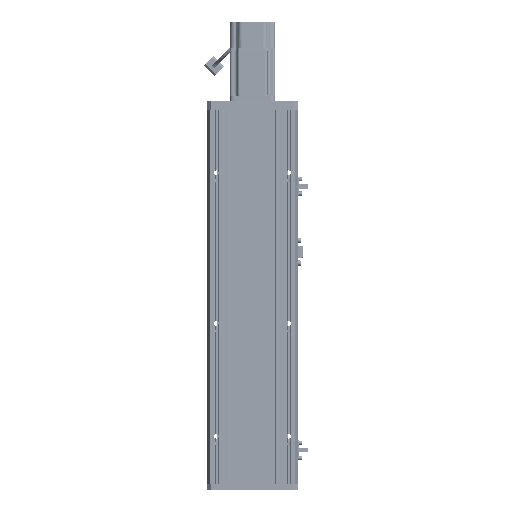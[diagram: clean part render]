
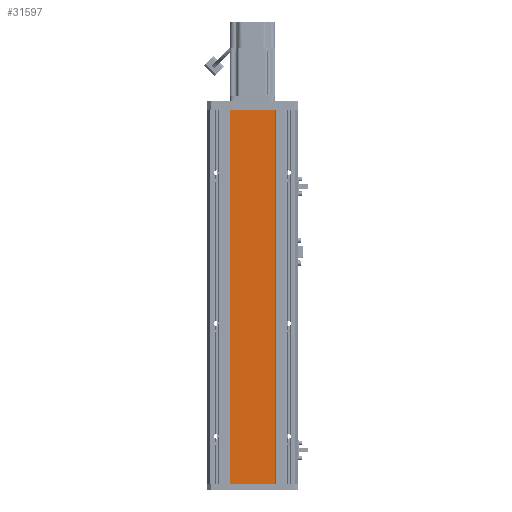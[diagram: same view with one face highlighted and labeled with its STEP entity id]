
A CAD part, front view. The second image highlights one B-rep face of the part: STEP entity #31597.
In plain terms, the highlighted planar face has unit normal (0, -1, 0).
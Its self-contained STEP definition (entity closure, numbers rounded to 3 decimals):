
#4625 = EDGE_LOOP ( 'NONE', ( #48035, #86810, #38893, #72281 ) ) ;
#8287 = CARTESIAN_POINT ( 'NONE',  ( 30., 0., 0. ) ) ;
#8640 = DIRECTION ( 'NONE',  ( -1., 0., 0. ) ) ;
#13234 = VECTOR ( 'NONE', #72509, 1000. ) ;
#16448 = CARTESIAN_POINT ( 'NONE',  ( 30., 0., -496.5 ) ) ;
#22801 = LINE ( 'NONE', #99445, #79898 ) ;
#24900 = LINE ( 'NONE', #91073, #87125 ) ;
#31597 = ADVANCED_FACE ( 'NONE', ( #49352 ), #81369, .F. ) ;
#33296 = EDGE_CURVE ( 'NONE', #90026, #87651, #24900, .T. ) ;
#37839 = DIRECTION ( 'NONE',  ( -1., 0., 0. ) ) ;
#38893 = ORIENTED_EDGE ( 'NONE', *, *, #89770, .F. ) ;
#43624 = CARTESIAN_POINT ( 'NONE',  ( -30., 0., 0. ) ) ;
#48035 = ORIENTED_EDGE ( 'NONE', *, *, #33296, .T. ) ;
#49352 = FACE_OUTER_BOUND ( 'NONE', #4625, .T. ) ;
#52717 = EDGE_CURVE ( 'NONE', #73357, #87651, #22801, .T. ) ;
#55407 = AXIS2_PLACEMENT_3D ( 'NONE', #16448, #57285, #8640 ) ;
#56424 = LINE ( 'NONE', #88816, #13234 ) ;
#57285 = DIRECTION ( 'NONE',  ( 0., 1., 0. ) ) ;
#59140 = VECTOR ( 'NONE', #37839, 1000. ) ;
#60171 = DIRECTION ( 'NONE',  ( 0., 0., 1. ) ) ;
#61923 = CARTESIAN_POINT ( 'NONE',  ( 30., 0., -496.5 ) ) ;
#63400 = EDGE_CURVE ( 'NONE', #71032, #90026, #56424, .T. ) ;
#71032 = VERTEX_POINT ( 'NONE', #83901 ) ;
#72281 = ORIENTED_EDGE ( 'NONE', *, *, #63400, .T. ) ;
#72509 = DIRECTION ( 'NONE',  ( 0., 0., 1. ) ) ;
#73357 = VERTEX_POINT ( 'NONE', #73747 ) ;
#73747 = CARTESIAN_POINT ( 'NONE',  ( -30., 0., -496.5 ) ) ;
#75152 = DIRECTION ( 'NONE',  ( -1., 0., 0. ) ) ;
#79898 = VECTOR ( 'NONE', #60171, 1000. ) ;
#81369 = PLANE ( 'NONE',  #55407 ) ;
#83901 = CARTESIAN_POINT ( 'NONE',  ( 30., 0., -496.5 ) ) ;
#86810 = ORIENTED_EDGE ( 'NONE', *, *, #52717, .F. ) ;
#87125 = VECTOR ( 'NONE', #75152, 1000. ) ;
#87651 = VERTEX_POINT ( 'NONE', #43624 ) ;
#88816 = CARTESIAN_POINT ( 'NONE',  ( 30., 0., -496.5 ) ) ;
#89770 = EDGE_CURVE ( 'NONE', #71032, #73357, #104691, .T. ) ;
#90026 = VERTEX_POINT ( 'NONE', #8287 ) ;
#91073 = CARTESIAN_POINT ( 'NONE',  ( 30., 0., 0. ) ) ;
#99445 = CARTESIAN_POINT ( 'NONE',  ( -30., 0., -496.5 ) ) ;
#104691 = LINE ( 'NONE', #61923, #59140 ) ;
